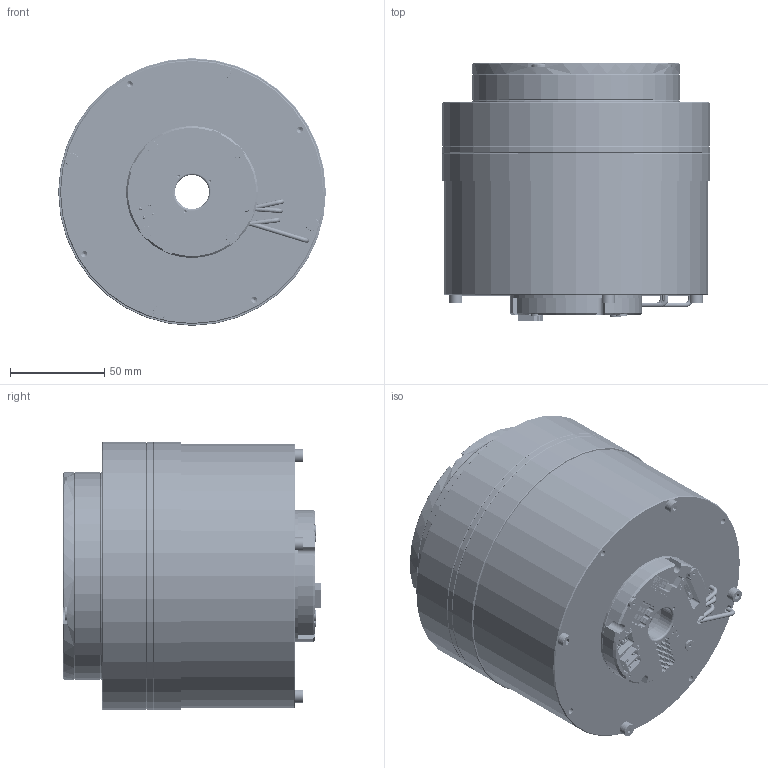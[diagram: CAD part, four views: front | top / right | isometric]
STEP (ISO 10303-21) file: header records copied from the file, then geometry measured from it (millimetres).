
FILE_DESCRIPTION (( 'STEP AP214' ), '1' );
FILE_NAME ('eRob 142 I.STEP', '2020-08-07T08:28:50', ( 'admin' ), ( '' ), 'SwSTEP 2.0', 'SolidWorks 2016', '' );
FILE_SCHEMA (( 'AUTOMOTIVE_DESIGN' ));
Length unit declared in the file: millimetre
Products named in the file (1): eRob 142 I
Bounding box: 142 x 137.3 x 142 mm (x, y, z)
Volume: 1556513.1 mm3; surface area: 215338.2 mm2
Topology: 42 solids, 42 shells, 3628 faces, 9654 edges, 6231 vertices
Faces by surface type: plane 1704, cylinder 1370, bspline 268, cone 216, torus 70
Entity records: 216489 total; most frequent: CARTESIAN_POINT 91477, ORIENTED_EDGE 19072, DIRECTION 15808, EDGE_CURVE 9536, VERTEX_POINT 6231, LINE 5820, VECTOR 5820, AXIS2_PLACEMENT_3D 4994
